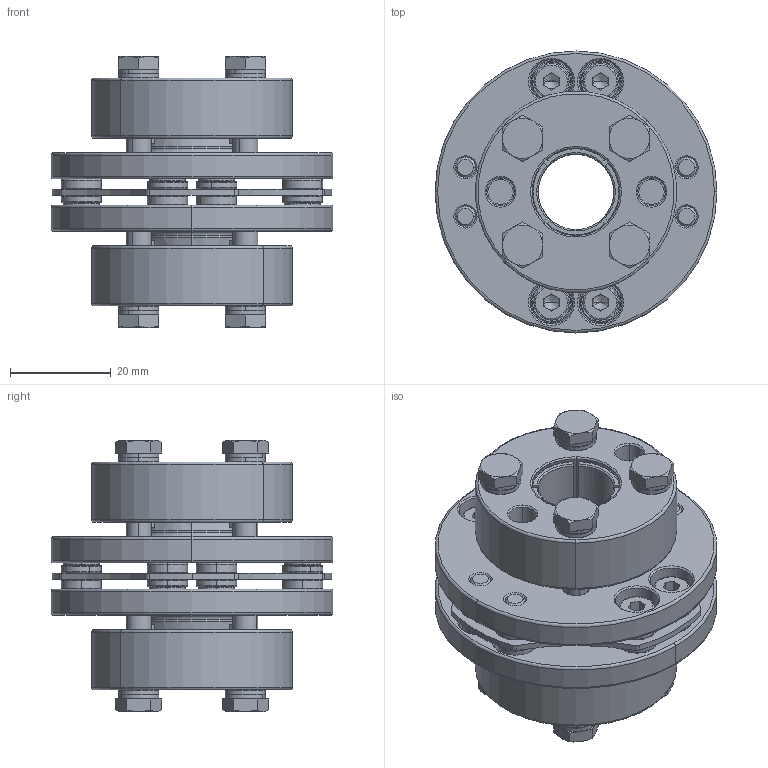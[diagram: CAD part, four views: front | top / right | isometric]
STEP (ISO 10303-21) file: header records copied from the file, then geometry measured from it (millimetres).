
FILE_DESCRIPTION (( 'STEP AP214' ), '1' );
FILE_NAME ('SHDS-56T.STEP', '2009-05-21T06:18:08', ( '歜煽繹' ), ( '' ), 'SwSTEP 2.0', 'SolidWorks 2007', '' );
FILE_SCHEMA (( 'AUTOMOTIVE_DESIGN' ));
Length unit declared in the file: millimetre
Products named in the file (9): collar-2_ル遽; body_ル遽; collar-1_ル遽; M4x10; cover_ル遽; Washer; M5x20_H_H; sus-plate1_ル遽; SHDS-56T
Assembly tree (45 placements, depth 2):
  SHDS-56T
    Washer  x8
    collar-2_ル遽  x8
    body_ル遽  x2
    collar-1_ル遽  x8
    M4x10  x8
    M5x20_H_H  x8
    cover_ル遽  x2
    sus-plate1_ル遽
Bounding box: 56 x 56 x 53.87 mm (x, y, z)
Volume: 52751.8 mm3; surface area: 37886.5 mm2
Topology: 45 solids, 45 shells, 1225 faces, 2653 edges, 1538 vertices
Faces by surface type: plane 342, torus 324, cylinder 307, cone 252
Entity records: 9847 total; most frequent: DIRECTION 1859, CARTESIAN_POINT 1684, ORIENTED_EDGE 1458, AXIS2_PLACEMENT_3D 802, EDGE_CURVE 729, CIRCLE 438, VERTEX_POINT 435, EDGE_LOOP 386
